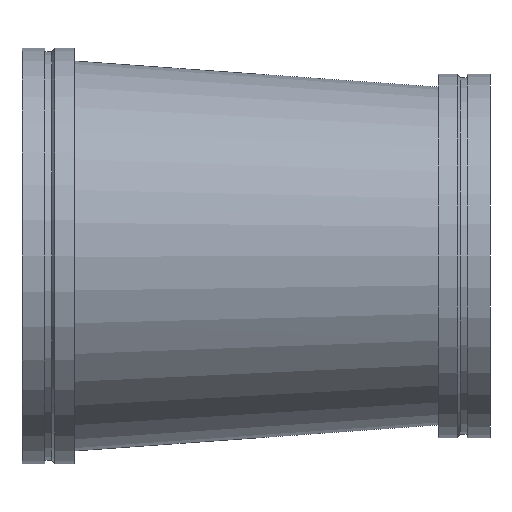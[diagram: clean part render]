
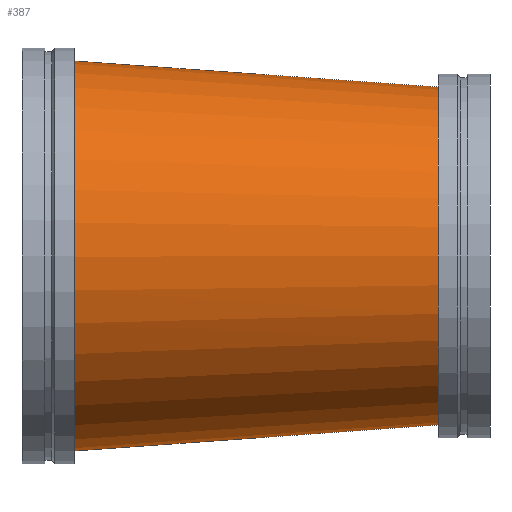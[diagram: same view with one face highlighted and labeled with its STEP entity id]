
A CAD part, front view. The second image highlights one B-rep face of the part: STEP entity #387.
In plain terms, the highlighted free-form (B-spline) face has degree [1, 2] with [2, 9] control points.
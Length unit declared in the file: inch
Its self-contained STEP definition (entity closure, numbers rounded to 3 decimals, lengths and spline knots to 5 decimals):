
#46=B_SPLINE_CURVE_WITH_KNOTS('',1,(#747,#748),.UNSPECIFIED.,.F.,.F.,(2,
2),(-1.87645,-0.00036),.UNSPECIFIED.);
#48=(
BOUNDED_SURFACE()
B_SPLINE_SURFACE(1,2,((#729,#730,#731,#732,#733,#734,#735,#736,#737),(#738,
#739,#740,#741,#742,#743,#744,#745,#746)),.UNSPECIFIED.,.F.,.T.,.F.)
B_SPLINE_SURFACE_WITH_KNOTS((2,2),(3,2,2,2,3),(-0.07107,1.93773),
(-3.14159,-1.5708,0.,1.5708,3.14159),
 .UNSPECIFIED.)
GEOMETRIC_REPRESENTATION_ITEM()
RATIONAL_B_SPLINE_SURFACE(((1.,0.707,1.,0.707,1.,
0.707,1.,0.707,1.),(1.,0.707,1.,0.707,
1.,0.707,1.,0.707,1.)))
REPRESENTATION_ITEM('')
SURFACE()
);
#98=FACE_OUTER_BOUND('',#120,.T.);
#120=EDGE_LOOP('',(#321,#322,#323,#324,#325,#326));
#129=CIRCLE('',#415,13.);
#130=CIRCLE('',#416,13.);
#153=CIRCLE('',#450,15.);
#154=CIRCLE('',#451,15.);
#166=VERTEX_POINT('',#628);
#167=VERTEX_POINT('',#629);
#190=VERTEX_POINT('',#695);
#191=VERTEX_POINT('',#696);
#203=EDGE_CURVE('',#166,#167,#129,.T.);
#204=EDGE_CURVE('',#167,#166,#130,.T.);
#235=EDGE_CURVE('',#190,#191,#153,.T.);
#236=EDGE_CURVE('',#191,#190,#154,.T.);
#243=EDGE_CURVE('',#167,#191,#46,.T.);
#321=ORIENTED_EDGE('',*,*,#203,.T.);
#322=ORIENTED_EDGE('',*,*,#243,.T.);
#323=ORIENTED_EDGE('',*,*,#236,.T.);
#324=ORIENTED_EDGE('',*,*,#235,.T.);
#325=ORIENTED_EDGE('',*,*,#243,.F.);
#326=ORIENTED_EDGE('',*,*,#204,.T.);
#387=ADVANCED_FACE('',(#98),#48,.F.);
#415=AXIS2_PLACEMENT_3D('',#630,#486,#487);
#416=AXIS2_PLACEMENT_3D('',#631,#488,#489);
#450=AXIS2_PLACEMENT_3D('',#697,#564,#565);
#451=AXIS2_PLACEMENT_3D('',#698,#566,#567);
#486=DIRECTION('center_axis',(-1.,0.,0.));
#487=DIRECTION('ref_axis',(0.,-1.,0.));
#488=DIRECTION('center_axis',(-1.,0.,0.));
#489=DIRECTION('ref_axis',(0.,-1.,0.));
#564=DIRECTION('center_axis',(1.,0.,0.));
#565=DIRECTION('ref_axis',(0.,1.,0.));
#566=DIRECTION('center_axis',(1.,0.,0.));
#567=DIRECTION('ref_axis',(0.,1.,0.));
#628=CARTESIAN_POINT('',(32.,-15.,0.));
#629=CARTESIAN_POINT('',(32.,-2.06566,12.99983));
#630=CARTESIAN_POINT('Origin',(32.,-2.,0.));
#631=CARTESIAN_POINT('Origin',(32.,-2.,0.));
#695=CARTESIAN_POINT('',(4.,15.,0.));
#696=CARTESIAN_POINT('',(4.,-0.07576,14.99981));
#697=CARTESIAN_POINT('Origin',(4.,0.,0.));
#698=CARTESIAN_POINT('Origin',(4.,0.,0.));
#729=CARTESIAN_POINT('Ctrl Pts',(2.93398,0.,
15.07595));
#730=CARTESIAN_POINT('Ctrl Pts',(1.86797,-15.,15.07595));
#731=CARTESIAN_POINT('Ctrl Pts',(1.86797,-15.,0.));
#732=CARTESIAN_POINT('Ctrl Pts',(1.86797,-15.,-15.07595));
#733=CARTESIAN_POINT('Ctrl Pts',(2.93398,0.,
-15.07595));
#734=CARTESIAN_POINT('Ctrl Pts',(4.,15.,-15.07595));
#735=CARTESIAN_POINT('Ctrl Pts',(4.,15.,0.));
#736=CARTESIAN_POINT('Ctrl Pts',(4.,15.,15.07595));
#737=CARTESIAN_POINT('Ctrl Pts',(2.93398,0.,
15.07595));
#738=CARTESIAN_POINT('Ctrl Pts',(32.9146,-2.13066,12.93451));
#739=CARTESIAN_POINT('Ctrl Pts',(32.,-15.,12.93451));
#740=CARTESIAN_POINT('Ctrl Pts',(32.,-15.,0.));
#741=CARTESIAN_POINT('Ctrl Pts',(32.,-15.,-12.93451));
#742=CARTESIAN_POINT('Ctrl Pts',(32.9146,-2.13066,-12.93451));
#743=CARTESIAN_POINT('Ctrl Pts',(33.82919,10.73869,-12.93451));
#744=CARTESIAN_POINT('Ctrl Pts',(33.82919,10.73869,0.));
#745=CARTESIAN_POINT('Ctrl Pts',(33.82919,10.73869,12.93451));
#746=CARTESIAN_POINT('Ctrl Pts',(32.9146,-2.13066,12.93451));
#747=CARTESIAN_POINT('Ctrl Pts',(32.,-2.06566,12.99983));
#748=CARTESIAN_POINT('Ctrl Pts',(4.,-0.07576,14.99981));
